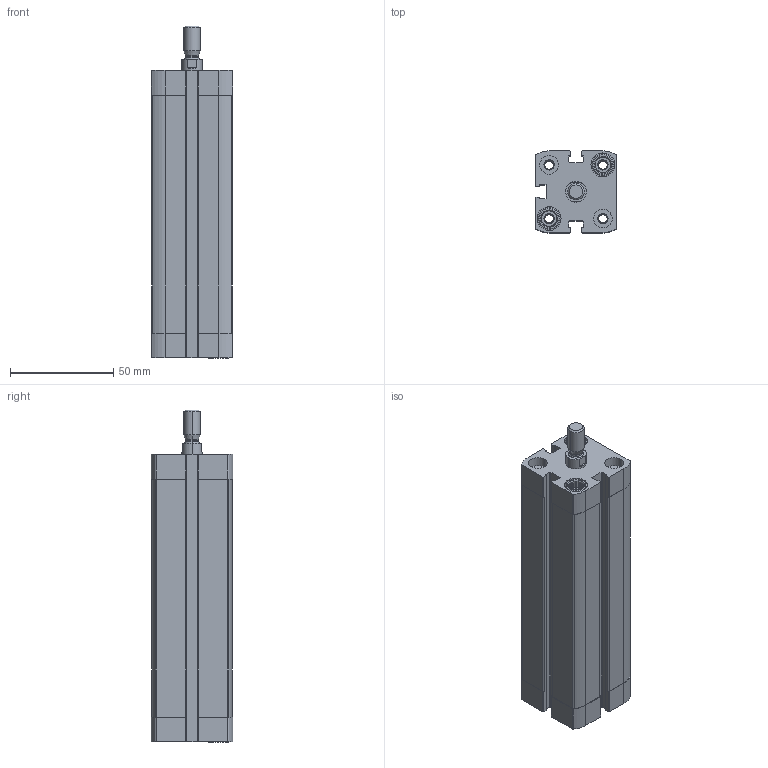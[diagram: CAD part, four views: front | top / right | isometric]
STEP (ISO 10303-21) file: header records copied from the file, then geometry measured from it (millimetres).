
FILE_DESCRIPTION (( 'STEP AP203' ), '1' );
FILE_NAME ('CCN25-100M.STEP', '2017-03-28T18:25:27', ( '' ), ( '' ), 'SwSTEP 2.0', 'SolidWorks 2016', '' );
FILE_SCHEMA (( 'CONFIG_CONTROL_DESIGN' ));
Length unit declared in the file: millimetre
Products named in the file (3): CCN25-100M; CCN-100---(Z); CCN-100-_(KS)
Assembly tree (2 placements, depth 2):
  CCN25-100M
    CCN-100---(Z)
    CCN-100-_(KS)
Bounding box: 39.5 x 39.5 x 160.5 mm (x, y, z)
Volume: 143081.2 mm3; surface area: 55578.9 mm2
Topology: 2 solids, 2 shells, 409 faces, 1078 edges, 704 vertices
Faces by surface type: plane 231, cylinder 134, cone 40, bspline 4
Entity records: 13173 total; most frequent: CARTESIAN_POINT 2556, DIRECTION 2210, ORIENTED_EDGE 2156, EDGE_CURVE 1078, AXIS2_PLACEMENT_3D 822, VERTEX_POINT 704, VECTOR 566, LINE 566
